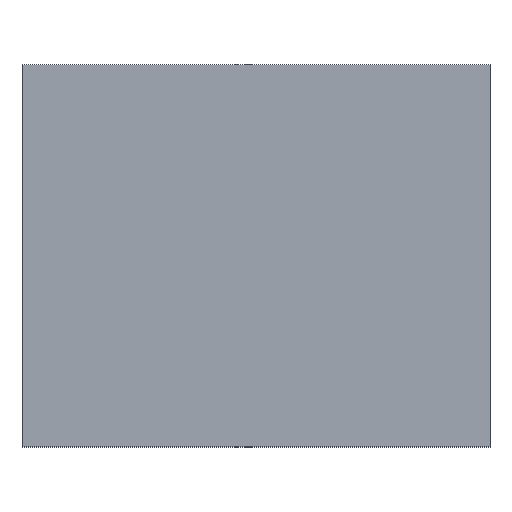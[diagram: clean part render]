
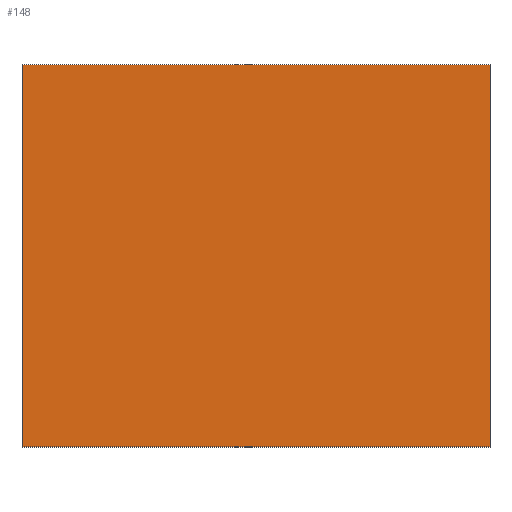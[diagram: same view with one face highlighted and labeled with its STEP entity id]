
A CAD part, top view. The second image highlights one B-rep face of the part: STEP entity #148.
In plain terms, the highlighted planar face has unit normal (0, 0, 1).
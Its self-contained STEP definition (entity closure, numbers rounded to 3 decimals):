
#9=CARTESIAN_POINT('',(-4.47,-3.65,3.16));
#10=VERTEX_POINT('',#9);
#11=CARTESIAN_POINT('',(4.47,-3.65,3.16));
#12=VERTEX_POINT('',#11);
#13=CARTESIAN_POINT('',(-4.47,3.65,3.16));
#14=VERTEX_POINT('',#13);
#15=CARTESIAN_POINT('',(4.47,3.65,3.16));
#16=VERTEX_POINT('',#15);
#17=DIRECTION('',(0.,1.,0.));
#18=VECTOR('',#17,7.3);
#19=CARTESIAN_POINT('',(-4.47,-3.65,3.16));
#20=LINE('',#19,#18);
#21=EDGE_CURVE('',#10,#14,#20,.T.);
#61=DIRECTION('',(0.,1.,0.));
#62=VECTOR('',#61,7.3);
#63=CARTESIAN_POINT('',(4.47,-3.65,3.16));
#64=LINE('',#63,#62);
#65=EDGE_CURVE('',#12,#16,#64,.T.);
#82=DIRECTION('',(1.,0.,0.));
#83=VECTOR('',#82,8.94);
#84=CARTESIAN_POINT('',(-4.47,-3.65,3.16));
#85=LINE('',#84,#83);
#86=EDGE_CURVE('',#10,#12,#85,.T.);
#104=DIRECTION('',(1.,0.,0.));
#105=VECTOR('',#104,8.94);
#106=CARTESIAN_POINT('',(-4.47,3.65,3.16));
#107=LINE('',#106,#105);
#108=EDGE_CURVE('',#14,#16,#107,.T.);
#137=ORIENTED_EDGE('',*,*,#86,.T.);
#138=ORIENTED_EDGE('',*,*,#65,.T.);
#139=ORIENTED_EDGE('',*,*,#108,.F.);
#140=ORIENTED_EDGE('',*,*,#21,.F.);
#141=EDGE_LOOP('',(#137,#138,#139,#140));
#142=FACE_OUTER_BOUND('',#141,.T.);
#143=CARTESIAN_POINT('',(-4.47,-3.65,3.16));
#144=DIRECTION('',(0.,0.,1.));
#145=DIRECTION('',(1.,0.,0.));
#146=AXIS2_PLACEMENT_3D('',#143,#144,#145);
#147=PLANE('',#146);
#148=ADVANCED_FACE('',(#142),#147,.T.);
